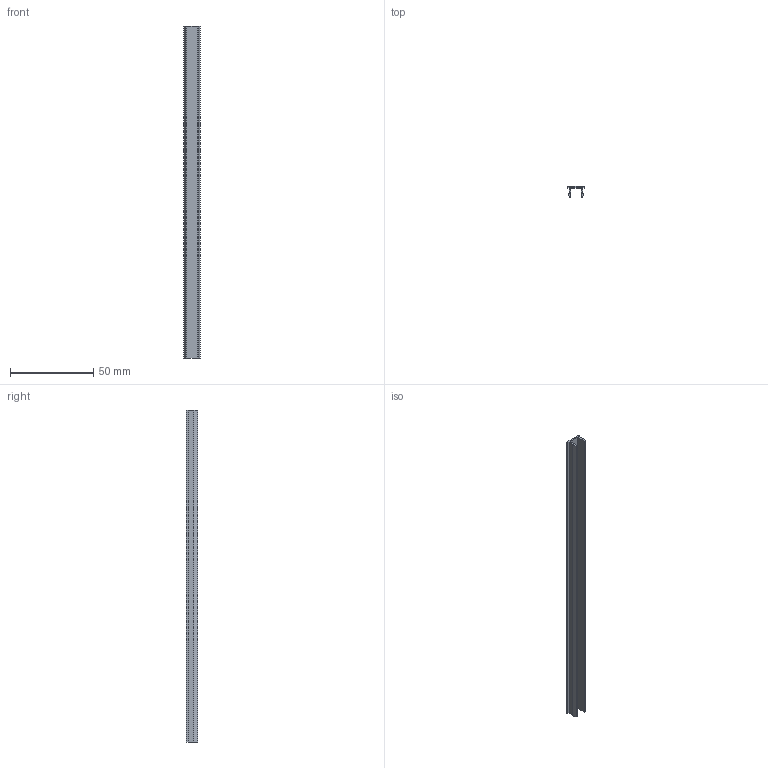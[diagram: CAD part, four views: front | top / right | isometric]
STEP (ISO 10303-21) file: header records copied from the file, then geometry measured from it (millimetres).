
FILE_DESCRIPTION((''),'2;1');
FILE_NAME('E:\catalogue and flyer\Profile catalogue 2015\Accessories ACC info\Accessories ACC step file 31Mar16\ACC-GS2000-8.stp','2016-04-07T15:22:55',('h029'),(''),'Autodesk Inventor 11','Autodesk Inventor 11','');
FILE_SCHEMA(('AUTOMOTIVE_DESIGN { 1 0 10303 214 1 1 1 1 }'));
Length unit declared in the file: millimetre
Products named in the file (1): AC-BS2000-8
Bounding box: 10.2 x 6.8 x 200 mm (x, y, z)
Volume: 4502.2 mm3; surface area: 9266.2 mm2
Topology: 1 solids, 1 shells, 18 faces, 48 edges, 32 vertices
Faces by surface type: plane 18
Entity records: 575 total; most frequent: CARTESIAN_POINT 99, ORIENTED_EDGE 96, DIRECTION 86, VECTOR 48, LINE 48, EDGE_CURVE 48, VERTEX_POINT 32, AXIS2_PLACEMENT_3D 19
